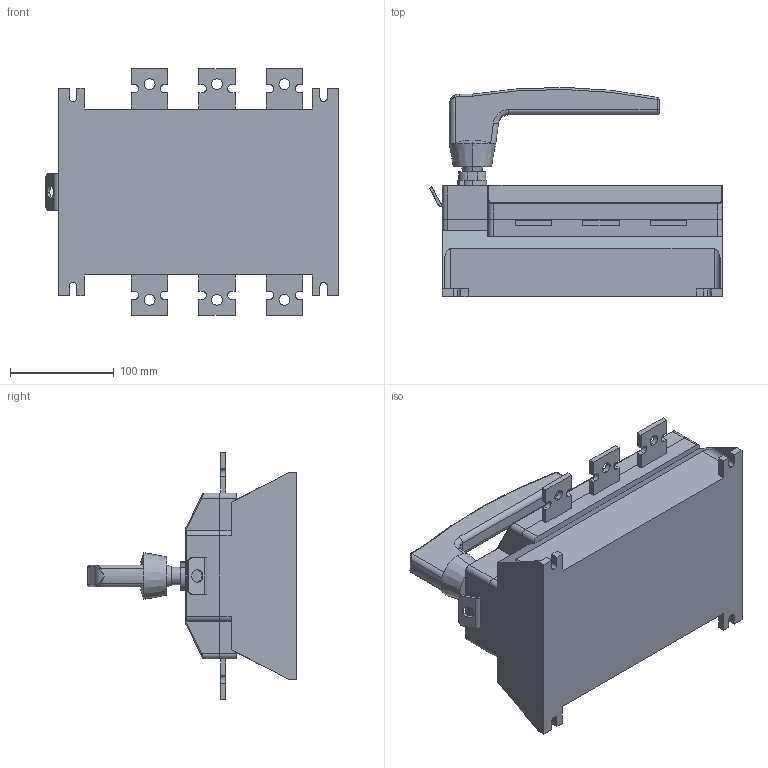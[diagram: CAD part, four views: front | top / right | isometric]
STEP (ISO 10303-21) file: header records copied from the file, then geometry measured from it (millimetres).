
FILE_DESCRIPTION (( 'STEP AP214' ), '1' );
FILE_NAME ('Âûêëþ÷àòåëü-ðàçúåäèíèòåëü ÂÐÝ 630À.STEP', '2018-03-14T10:55:54', ( '' ), ( '' ), 'SwSTEP 2.0', 'SolidWorks 2017', '' );
FILE_SCHEMA (( 'AUTOMOTIVE_DESIGN' ));
Length unit declared in the file: millimetre
Products named in the file (1): Âûêëþ÷àòåëü-ðàçúåäèíèòåëü ÂÐÝ 630À
Bounding box: 282.22 x 201.43 x 238 mm (x, y, z)
Volume: 4541515.9 mm3; surface area: 307228.4 mm2
Topology: 4 solids, 4 shells, 476 faces, 1266 edges, 830 vertices
Faces by surface type: plane 261, bspline 112, cylinder 83, torus 14, cone 4, sphere 2
Entity records: 19017 total; most frequent: CARTESIAN_POINT 7565, ORIENTED_EDGE 2528, DIRECTION 1932, EDGE_CURVE 1264, LINE 838, VECTOR 838, VERTEX_POINT 830, AXIS2_PLACEMENT_3D 547
